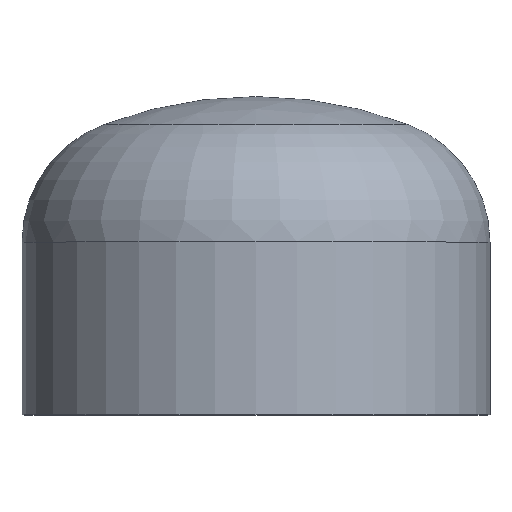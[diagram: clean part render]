
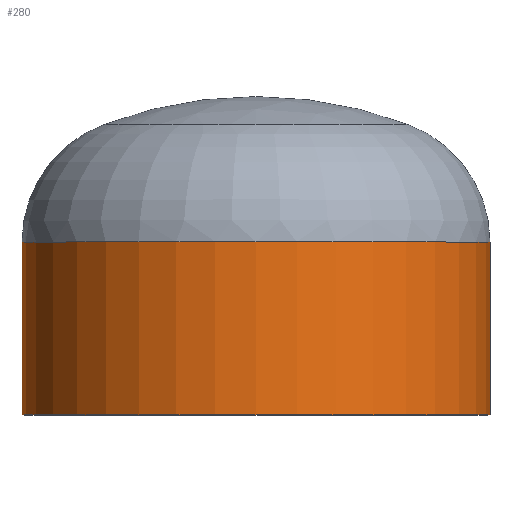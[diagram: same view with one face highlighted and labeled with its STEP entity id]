
A CAD part, top view. The second image highlights one B-rep face of the part: STEP entity #280.
In plain terms, the highlighted cylindrical face has radius 203.2 mm (diameter 406.4 mm), a partial arc.
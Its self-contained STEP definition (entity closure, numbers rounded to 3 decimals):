
#7 = CARTESIAN_POINT ( 'NONE',  ( 0., 0., 0. ) ) ;
#12 = DIRECTION ( 'NONE',  ( 0., -1., 0. ) ) ;
#13 = ORIENTED_EDGE ( 'NONE', *, *, #317, .F. ) ;
#22 = CARTESIAN_POINT ( 'NONE',  ( 203.2, 0., 0. ) ) ;
#27 = AXIS2_PLACEMENT_3D ( 'NONE', #252, #30, #284 ) ;
#30 = DIRECTION ( 'NONE',  ( 0., -1., 0. ) ) ;
#36 = AXIS2_PLACEMENT_3D ( 'NONE', #7, #12, #390 ) ;
#38 = AXIS2_PLACEMENT_3D ( 'NONE', #147, #369, #363 ) ;
#50 = VERTEX_POINT ( 'NONE', #190 ) ;
#80 = EDGE_CURVE ( 'NONE', #410, #289, #194, .T. ) ;
#81 = VERTEX_POINT ( 'NONE', #304 ) ;
#87 = EDGE_CURVE ( 'NONE', #81, #50, #389, .T. ) ;
#108 = CARTESIAN_POINT ( 'NONE',  ( 203.2, 150., 0. ) ) ;
#143 = FACE_OUTER_BOUND ( 'NONE', #347, .T. ) ;
#147 = CARTESIAN_POINT ( 'NONE',  ( 0., 150., 0. ) ) ;
#176 = ORIENTED_EDGE ( 'NONE', *, *, #294, .T. ) ;
#190 = CARTESIAN_POINT ( 'NONE',  ( -203.2, 0., 0. ) ) ;
#194 = LINE ( 'NONE', #207, #266 ) ;
#202 = DIRECTION ( 'NONE',  ( 0., -1., 0. ) ) ;
#207 = CARTESIAN_POINT ( 'NONE',  ( 203.2, 0., 0. ) ) ;
#211 = ORIENTED_EDGE ( 'NONE', *, *, #87, .T. ) ;
#217 = CIRCLE ( 'NONE', #27, 203.2 ) ;
#226 = CYLINDRICAL_SURFACE ( 'NONE', #36, 203.2 ) ;
#249 = VECTOR ( 'NONE', #303, 1000. ) ;
#252 = CARTESIAN_POINT ( 'NONE',  ( 0., 0., 0. ) ) ;
#266 = VECTOR ( 'NONE', #202, 1000. ) ;
#280 = ADVANCED_FACE ( 'NONE', ( #143 ), #226, .T. ) ;
#283 = ORIENTED_EDGE ( 'NONE', *, *, #80, .F. ) ;
#284 = DIRECTION ( 'NONE',  ( 1., 0., 0. ) ) ;
#289 = VERTEX_POINT ( 'NONE', #22 ) ;
#294 = EDGE_CURVE ( 'NONE', #410, #81, #357, .T. ) ;
#298 = CARTESIAN_POINT ( 'NONE',  ( -203.2, 0., 0. ) ) ;
#303 = DIRECTION ( 'NONE',  ( 0., -1., 0. ) ) ;
#304 = CARTESIAN_POINT ( 'NONE',  ( -203.2, 150., 0. ) ) ;
#317 = EDGE_CURVE ( 'NONE', #289, #50, #217, .T. ) ;
#347 = EDGE_LOOP ( 'NONE', ( #176, #211, #13, #283 ) ) ;
#357 = CIRCLE ( 'NONE', #38, 203.2 ) ;
#363 = DIRECTION ( 'NONE',  ( 1., 0., 0. ) ) ;
#369 = DIRECTION ( 'NONE',  ( 0., -1., 0. ) ) ;
#389 = LINE ( 'NONE', #298, #249 ) ;
#390 = DIRECTION ( 'NONE',  ( 1., 0., 0. ) ) ;
#410 = VERTEX_POINT ( 'NONE', #108 ) ;
